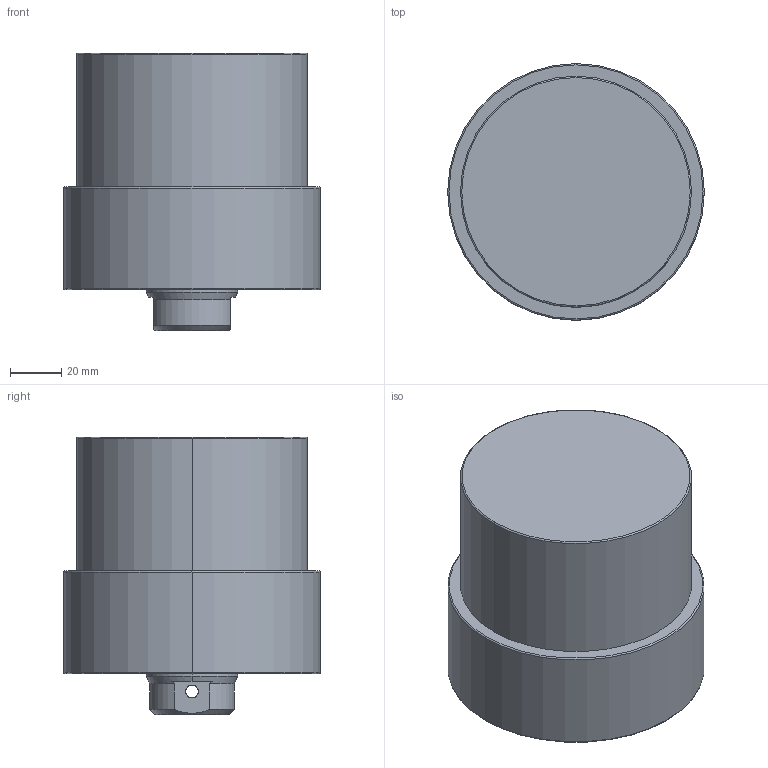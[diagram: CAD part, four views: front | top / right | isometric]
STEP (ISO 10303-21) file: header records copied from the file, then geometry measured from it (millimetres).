
FILE_DESCRIPTION (( 'STEP AP203' ), '1' );
FILE_NAME ('CLLU-090GB-030.STEP', '2020-01-11T00:53:54', ( '' ), ( '' ), 'SwSTEP 2.0', 'SolidWorks 2015', '' );
FILE_SCHEMA (( 'CONFIG_CONTROL_DESIGN' ));
Length unit declared in the file: millimetre
Products named in the file (1): CLLU-090GB-030
Bounding box: 100 x 100 x 108 mm (x, y, z)
Volume: 640269.5 mm3; surface area: 49675.2 mm2
Topology: 1 solids, 1 shells, 66 faces, 154 edges, 87 vertices
Faces by surface type: cylinder 26, cone 24, plane 10, torus 6
Entity records: 2029 total; most frequent: CARTESIAN_POINT 458, DIRECTION 342, ORIENTED_EDGE 288, EDGE_CURVE 144, AXIS2_PLACEMENT_3D 143, VERTEX_POINT 87, EDGE_LOOP 77, CIRCLE 76
